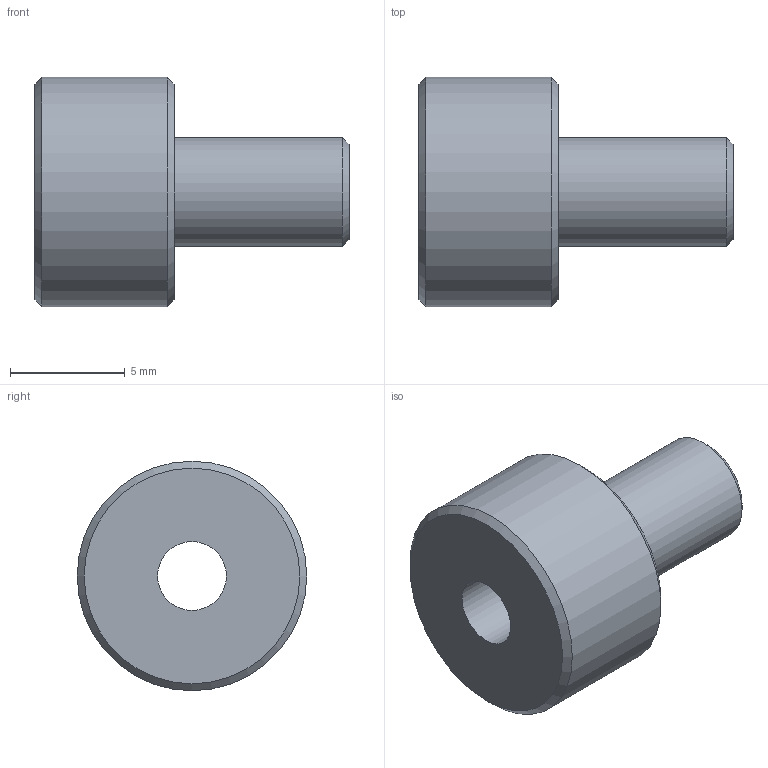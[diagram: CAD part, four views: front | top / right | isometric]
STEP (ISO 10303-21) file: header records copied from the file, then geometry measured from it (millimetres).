
FILE_DESCRIPTION((''),'2;1');
FILE_NAME('C:\Documents and Settings\土屋\My Documents\土屋移動用フォルダ\製品 (図面)\カタログ用3D\リニアガイド\VW\SB\SB1.stp','2015-02-21T14:02:11',('y'),(''),'Autodesk Inventor 11','Autodesk Inventor 11','');
FILE_SCHEMA(('AUTOMOTIVE_DESIGN { 1 0 10303 214 1 1 1 1 }'));
Length unit declared in the file: millimetre
Products named in the file (1): SB1
Bounding box: 13.68 x 10 x 10 mm (x, y, z)
Volume: 510.9 mm3; surface area: 561.9 mm2
Topology: 1 solids, 1 shells, 9 faces, 15 edges, 9 vertices
Faces by surface type: cylinder 3, cone 3, plane 3
Full cylindrical faces by diameter (mm): 3 x1, 4.75 x1, 10 x1
Entity records: 211 total; most frequent: DIRECTION 38, CARTESIAN_POINT 28, AXIS2_PLACEMENT_3D 19, ORIENTED_EDGE 18, EDGE_LOOP 18, VERTEX_POINT 9, CIRCLE 9, EDGE_CURVE 9
